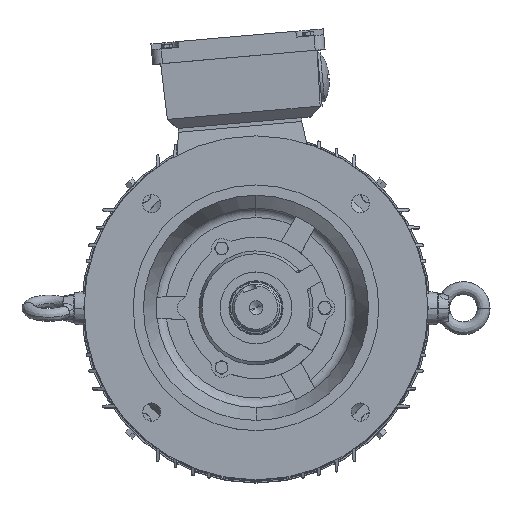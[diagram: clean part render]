
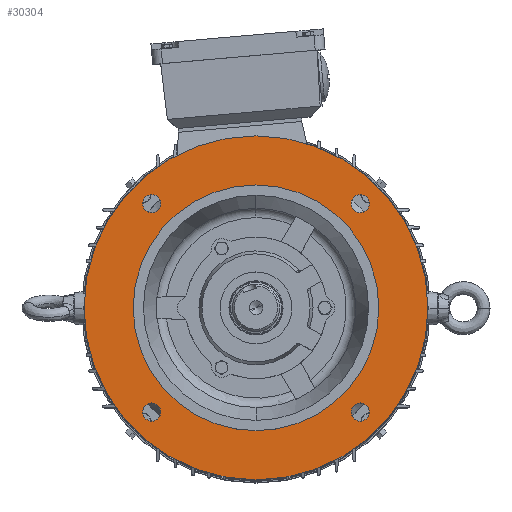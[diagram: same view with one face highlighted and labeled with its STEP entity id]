
A CAD part, top view. The second image highlights one B-rep face of the part: STEP entity #30304.
In plain terms, the highlighted planar face has unit normal (0, 0, 1) as drawn and (-1, 0, 0) by its records, which use the part's own axes.
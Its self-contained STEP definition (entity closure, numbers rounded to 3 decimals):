
#1316 = CIRCLE ( 'NONE', #9607, 9.25 ) ;
#1328 = CIRCLE ( 'NONE', #9611, 9.25 ) ;
#1340 = CIRCLE ( 'NONE', #9615, 9.25 ) ;
#1350 = CIRCLE ( 'NONE', #9617, 9.25 ) ;
#1395 = CIRCLE ( 'NONE', #9632, 175. ) ;
#1418 = CIRCLE ( 'NONE', #9645, 125. ) ;
#4052 = CARTESIAN_POINT ( 'NONE',  ( 5., 106.066, -106.066 ) ) ;
#4053 = DIRECTION ( 'NONE',  ( -1., 0., 0. ) ) ;
#4054 = DIRECTION ( 'NONE',  ( 0., 0., -1. ) ) ;
#9607 = AXIS2_PLACEMENT_3D ( 'NONE', #4052, #4053, #4054 ) ;
#9611 = AXIS2_PLACEMENT_3D ( 'NONE', #35731, #35732, #35733 ) ;
#9615 = AXIS2_PLACEMENT_3D ( 'NONE', #35752, #35753, #35754 ) ;
#9617 = AXIS2_PLACEMENT_3D ( 'NONE', #35762, #35763, #35764 ) ;
#9632 = AXIS2_PLACEMENT_3D ( 'NONE', #35836, #35837, #35838 ) ;
#9645 = AXIS2_PLACEMENT_3D ( 'NONE', #35924, #35925, #35926 ) ;
#19609 = VERTEX_POINT ( 'NONE', #70606 ) ;
#19616 = VERTEX_POINT ( 'NONE', #70612 ) ;
#19631 = VERTEX_POINT ( 'NONE', #70622 ) ;
#19640 = VERTEX_POINT ( 'NONE', #70628 ) ;
#19652 = VERTEX_POINT ( 'NONE', #70638 ) ;
#19661 = VERTEX_POINT ( 'NONE', #70644 ) ;
#19663 = VERTEX_POINT ( 'NONE', #70646 ) ;
#19666 = VERTEX_POINT ( 'NONE', #70648 ) ;
#25882 = ORIENTED_EDGE ( 'NONE', *, *, #96370, .F. ) ;
#25883 = ORIENTED_EDGE ( 'NONE', *, *, #45178, .F. ) ;
#25884 = ORIENTED_EDGE ( 'NONE', *, *, #96382, .F. ) ;
#25885 = ORIENTED_EDGE ( 'NONE', *, *, #45179, .F. ) ;
#25886 = ORIENTED_EDGE ( 'NONE', *, *, #96435, .F. ) ;
#25887 = ORIENTED_EDGE ( 'NONE', *, *, #45180, .F. ) ;
#25888 = ORIENTED_EDGE ( 'NONE', *, *, #96412, .T. ) ;
#25889 = ORIENTED_EDGE ( 'NONE', *, *, #45181, .T. ) ;
#25890 = ORIENTED_EDGE ( 'NONE', *, *, #96378, .F. ) ;
#25891 = ORIENTED_EDGE ( 'NONE', *, *, #45182, .F. ) ;
#25892 = ORIENTED_EDGE ( 'NONE', *, *, #96362, .F. ) ;
#25893 = ORIENTED_EDGE ( 'NONE', *, *, #45183, .F. ) ;
#26075 = CARTESIAN_POINT ( 'NONE',  ( 5., 0., 0. ) ) ;
#26076 = DIRECTION ( 'NONE',  ( -1., 0., 0. ) ) ;
#26077 = DIRECTION ( 'NONE',  ( 0., 0., 1. ) ) ;
#26078 = CARTESIAN_POINT ( 'NONE',  ( 5., -106.066, 106.066 ) ) ;
#26079 = DIRECTION ( 'NONE',  ( -1., 0., 0. ) ) ;
#26080 = DIRECTION ( 'NONE',  ( 0., 0., -1. ) ) ;
#26083 = CARTESIAN_POINT ( 'NONE',  ( 5., 106.066, -106.066 ) ) ;
#26084 = DIRECTION ( 'NONE',  ( -1., 0., 0. ) ) ;
#26085 = DIRECTION ( 'NONE',  ( 0., 0., -1. ) ) ;
#30304 = ADVANCED_FACE ( 'NONE', ( #68710, #68706, #68711, #68708, #68698, #68713 ), #63960, .F. ) ;
#35731 = CARTESIAN_POINT ( 'NONE',  ( 5., -106.066, -106.066 ) ) ;
#35732 = DIRECTION ( 'NONE',  ( -1., 0., 0. ) ) ;
#35733 = DIRECTION ( 'NONE',  ( 0., 0., -1. ) ) ;
#35752 = CARTESIAN_POINT ( 'NONE',  ( 5., -106.066, 106.066 ) ) ;
#35753 = DIRECTION ( 'NONE',  ( -1., 0., 0. ) ) ;
#35754 = DIRECTION ( 'NONE',  ( 0., 0., -1. ) ) ;
#35762 = CARTESIAN_POINT ( 'NONE',  ( 5., 106.066, 106.066 ) ) ;
#35763 = DIRECTION ( 'NONE',  ( -1., 0., 0. ) ) ;
#35764 = DIRECTION ( 'NONE',  ( 0., 0., -1. ) ) ;
#35836 = CARTESIAN_POINT ( 'NONE',  ( 5., 0., 0. ) ) ;
#35837 = DIRECTION ( 'NONE',  ( -1., 0., 0. ) ) ;
#35838 = DIRECTION ( 'NONE',  ( 0., 0., 1. ) ) ;
#35924 = CARTESIAN_POINT ( 'NONE',  ( 5., 0., 0. ) ) ;
#35925 = DIRECTION ( 'NONE',  ( -1., 0., 0. ) ) ;
#35926 = DIRECTION ( 'NONE',  ( 0., 0., 1. ) ) ;
#39449 = EDGE_LOOP ( 'NONE', ( #25884, #25885 ) ) ;
#39477 = EDGE_LOOP ( 'NONE', ( #25882, #25883 ) ) ;
#39481 = EDGE_LOOP ( 'NONE', ( #25886, #25887 ) ) ;
#39487 = EDGE_LOOP ( 'NONE', ( #25888, #25889 ) ) ;
#39489 = EDGE_LOOP ( 'NONE', ( #25890, #25891 ) ) ;
#39491 = EDGE_LOOP ( 'NONE', ( #25892, #25893 ) ) ;
#43997 = AXIS2_PLACEMENT_3D ( 'NONE', #63963, #63956, #63965 ) ;
#45178 = EDGE_CURVE ( 'NONE', #19640, #19631, #71998, .T. ) ;
#45179 = EDGE_CURVE ( 'NONE', #19666, #19663, #72000, .T. ) ;
#45180 = EDGE_CURVE ( 'NONE', #92791, #92805, #72002, .T. ) ;
#45181 = EDGE_CURVE ( 'NONE', #92767, #92765, #72003, .T. ) ;
#45182 = EDGE_CURVE ( 'NONE', #19661, #19652, #72005, .T. ) ;
#45183 = EDGE_CURVE ( 'NONE', #19616, #19609, #72009, .T. ) ;
#63956 = DIRECTION ( 'NONE',  ( 1., 0., 0. ) ) ;
#63960 = PLANE ( 'NONE',  #43997 ) ;
#63963 = CARTESIAN_POINT ( 'NONE',  ( 5., 125., 0. ) ) ;
#63965 = DIRECTION ( 'NONE',  ( 0., 0., -1. ) ) ;
#68698 = FACE_BOUND ( 'NONE', #39489, .T. ) ;
#68706 = FACE_BOUND ( 'NONE', #39449, .T. ) ;
#68708 = FACE_OUTER_BOUND ( 'NONE', #39487, .T. ) ;
#68710 = FACE_BOUND ( 'NONE', #39477, .T. ) ;
#68711 = FACE_BOUND ( 'NONE', #39481, .T. ) ;
#68713 = FACE_BOUND ( 'NONE', #39491, .T. ) ;
#70606 = CARTESIAN_POINT ( 'NONE',  ( 5., 106.066, -115.316 ) ) ;
#70612 = CARTESIAN_POINT ( 'NONE',  ( 5., 106.066, -96.816 ) ) ;
#70622 = CARTESIAN_POINT ( 'NONE',  ( 5., -106.066, -115.316 ) ) ;
#70628 = CARTESIAN_POINT ( 'NONE',  ( 5., -106.066, -96.816 ) ) ;
#70638 = CARTESIAN_POINT ( 'NONE',  ( 5., -106.066, 96.816 ) ) ;
#70644 = CARTESIAN_POINT ( 'NONE',  ( 5., -106.066, 115.316 ) ) ;
#70646 = CARTESIAN_POINT ( 'NONE',  ( 5., 106.066, 96.816 ) ) ;
#70648 = CARTESIAN_POINT ( 'NONE',  ( 5., 106.066, 115.316 ) ) ;
#71998 = CIRCLE ( 'NONE', #98848, 9.25 ) ;
#72000 = CIRCLE ( 'NONE', #98849, 9.25 ) ;
#72002 = CIRCLE ( 'NONE', #98851, 125. ) ;
#72003 = CIRCLE ( 'NONE', #98854, 175. ) ;
#72005 = CIRCLE ( 'NONE', #98856, 9.25 ) ;
#72009 = CIRCLE ( 'NONE', #98858, 9.25 ) ;
#83316 = CARTESIAN_POINT ( 'NONE',  ( 5., 0., 175. ) ) ;
#83319 = CARTESIAN_POINT ( 'NONE',  ( 5., 0., -175. ) ) ;
#83362 = CARTESIAN_POINT ( 'NONE',  ( 5., 0., -125. ) ) ;
#83387 = CARTESIAN_POINT ( 'NONE',  ( 5., 0., 125. ) ) ;
#92765 = VERTEX_POINT ( 'NONE', #83316 ) ;
#92767 = VERTEX_POINT ( 'NONE', #83319 ) ;
#92791 = VERTEX_POINT ( 'NONE', #83362 ) ;
#92805 = VERTEX_POINT ( 'NONE', #83387 ) ;
#95992 = CARTESIAN_POINT ( 'NONE',  ( 5., -106.066, -106.066 ) ) ;
#95993 = DIRECTION ( 'NONE',  ( -1., 0., 0. ) ) ;
#95994 = DIRECTION ( 'NONE',  ( 0., 0., -1. ) ) ;
#95995 = CARTESIAN_POINT ( 'NONE',  ( 5., 106.066, 106.066 ) ) ;
#95996 = DIRECTION ( 'NONE',  ( -1., 0., 0. ) ) ;
#95997 = DIRECTION ( 'NONE',  ( 0., 0., -1. ) ) ;
#95998 = CARTESIAN_POINT ( 'NONE',  ( 5., 0., 0. ) ) ;
#95999 = DIRECTION ( 'NONE',  ( -1., 0., 0. ) ) ;
#96000 = DIRECTION ( 'NONE',  ( 0., 0., 1. ) ) ;
#96362 = EDGE_CURVE ( 'NONE', #19609, #19616, #1316, .T. ) ;
#96370 = EDGE_CURVE ( 'NONE', #19631, #19640, #1328, .T. ) ;
#96378 = EDGE_CURVE ( 'NONE', #19652, #19661, #1340, .T. ) ;
#96382 = EDGE_CURVE ( 'NONE', #19663, #19666, #1350, .T. ) ;
#96412 = EDGE_CURVE ( 'NONE', #92765, #92767, #1395, .T. ) ;
#96435 = EDGE_CURVE ( 'NONE', #92805, #92791, #1418, .T. ) ;
#98848 = AXIS2_PLACEMENT_3D ( 'NONE', #95992, #95993, #95994 ) ;
#98849 = AXIS2_PLACEMENT_3D ( 'NONE', #95995, #95996, #95997 ) ;
#98851 = AXIS2_PLACEMENT_3D ( 'NONE', #95998, #95999, #96000 ) ;
#98854 = AXIS2_PLACEMENT_3D ( 'NONE', #26075, #26076, #26077 ) ;
#98856 = AXIS2_PLACEMENT_3D ( 'NONE', #26078, #26079, #26080 ) ;
#98858 = AXIS2_PLACEMENT_3D ( 'NONE', #26083, #26084, #26085 ) ;
